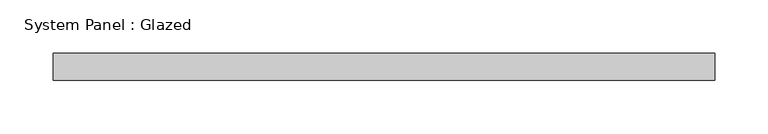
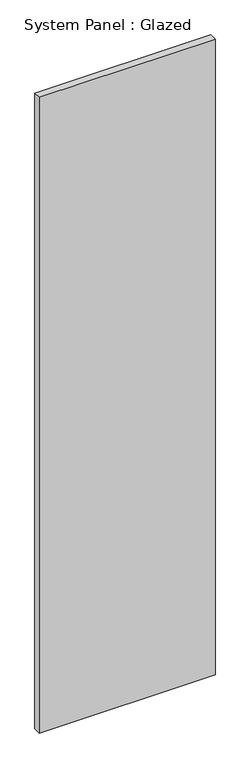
"""IFC4 building model written with IfcOpenShell, lengths in millimetres: plate geometry, System Panel : Glazed."""

from ifc_helpers import new_model, si_unit, origin, origin_with_axes, place, context, project, spatial, polyline, outline, extrude, source, transform, mapped, element, save


def system_panel_glazed_18db6a70(model_context):
    return source(origin(), model_context, "Body", "SweptSolid", [
        extrude(outline(polyline([(310.7083334, 19.05), (-310.7083334, 19.05), (-310.7083334, 44.45), (310.7083334, 44.45), (310.7083334, 19.05)])), origin_with_axes(), (0.0, 0.0, 1.0), 2373.0),
    ])


if __name__ == "__main__":
    model = new_model("IFC4")
    model_context = context("Model", 3, world=origin())
    ifc_project = project(units=[si_unit("LENGTHUNIT", "METRE", prefix="MILLI")], contexts=[model_context])
    site = spatial("IfcSite", under=ifc_project)
    building = spatial("IfcBuilding", under=site)
    placement = place(None, origin())
    system_panel_glazed_shape = system_panel_glazed_18db6a70(model_context)
    element("IfcPlate", 1, ObjectType="System Panel : Glazed", at=placement, inside=building, context=model_context, shape_type="MappedRepresentation", body=[
        mapped(system_panel_glazed_shape, transform((0.0, 0.0, 0.0), x_axis=(1.0, 0.0, 0.0), y_axis=(0.0, 1.0, 0.0), z_axis=(0.0, 0.0, 1.0))),
    ])
    save(model, "model.ifc")
